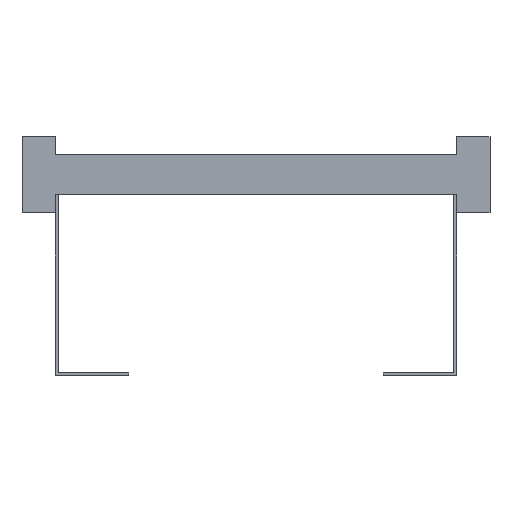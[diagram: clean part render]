
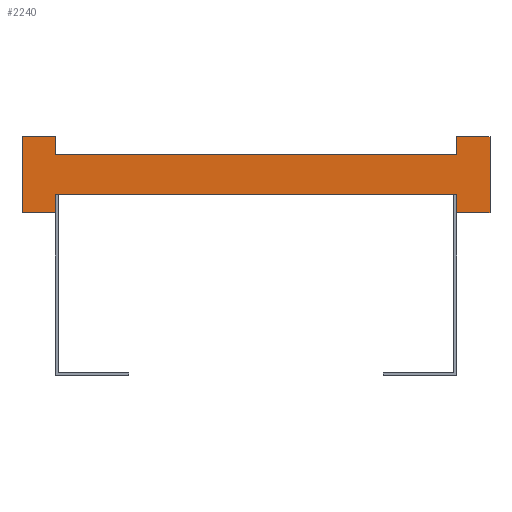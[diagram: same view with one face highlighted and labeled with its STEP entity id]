
A CAD part, front view. The second image highlights one B-rep face of the part: STEP entity #2240.
In plain terms, the highlighted planar face has unit normal (0, -1, 0).
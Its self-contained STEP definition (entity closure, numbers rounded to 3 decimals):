
#1=DIRECTION('',(0.,0.,1.));
#2=VECTOR('',#1,13.5);
#3=CARTESIAN_POINT('',(150.,0.,-28.5));
#4=LINE('',#3,#2);
#5=DIRECTION('',(0.,0.,-1.));
#6=VECTOR('',#5,13.5);
#7=CARTESIAN_POINT('',(-150.,0.,-15.));
#8=LINE('',#7,#6);
#9=DIRECTION('',(-1.,0.,0.));
#10=VECTOR('',#9,25.);
#11=CARTESIAN_POINT('',(-150.,0.,-28.5));
#12=LINE('',#11,#10);
#13=DIRECTION('',(0.,0.,1.));
#14=VECTOR('',#13,57.);
#15=CARTESIAN_POINT('',(-175.,0.,-28.5));
#16=LINE('',#15,#14);
#17=DIRECTION('',(1.,0.,0.));
#18=VECTOR('',#17,25.);
#19=CARTESIAN_POINT('',(-175.,0.,28.5));
#20=LINE('',#19,#18);
#21=DIRECTION('',(0.,0.,-1.));
#22=VECTOR('',#21,13.5);
#23=CARTESIAN_POINT('',(-150.,0.,28.5));
#24=LINE('',#23,#22);
#25=DIRECTION('',(0.,0.,1.));
#26=VECTOR('',#25,13.5);
#27=CARTESIAN_POINT('',(150.,0.,15.));
#28=LINE('',#27,#26);
#29=DIRECTION('',(1.,0.,0.));
#30=VECTOR('',#29,25.);
#31=CARTESIAN_POINT('',(150.,0.,28.5));
#32=LINE('',#31,#30);
#33=DIRECTION('',(0.,0.,-1.));
#34=VECTOR('',#33,57.);
#35=CARTESIAN_POINT('',(175.,0.,28.5));
#36=LINE('',#35,#34);
#37=DIRECTION('',(-1.,0.,0.));
#38=VECTOR('',#37,25.);
#39=CARTESIAN_POINT('',(175.,0.,-28.5));
#40=LINE('',#39,#38);
#1649=DIRECTION('',(1.,0.,0.));
#1650=VECTOR('',#1649,300.);
#1651=CARTESIAN_POINT('',(-150.,0.,-15.));
#1652=LINE('',#1651,#1650);
#1661=DIRECTION('',(1.,0.,0.));
#1662=VECTOR('',#1661,300.);
#1663=CARTESIAN_POINT('',(-150.,0.,15.));
#1664=LINE('',#1663,#1662);
#1665=CARTESIAN_POINT('',(-175.,0.,28.5));
#1666=CARTESIAN_POINT('',(-150.,0.,28.5));
#1667=VERTEX_POINT('',#1665);
#1668=VERTEX_POINT('',#1666);
#1669=CARTESIAN_POINT('',(-150.,0.,-28.5));
#1670=CARTESIAN_POINT('',(-175.,0.,-28.5));
#1671=VERTEX_POINT('',#1669);
#1672=VERTEX_POINT('',#1670);
#1673=CARTESIAN_POINT('',(175.,0.,28.5));
#1674=CARTESIAN_POINT('',(175.,0.,-28.5));
#1675=VERTEX_POINT('',#1673);
#1676=VERTEX_POINT('',#1674);
#1677=CARTESIAN_POINT('',(150.,0.,-28.5));
#1678=VERTEX_POINT('',#1677);
#1679=CARTESIAN_POINT('',(150.,0.,28.5));
#1680=VERTEX_POINT('',#1679);
#1697=CARTESIAN_POINT('',(-150.,0.,-15.));
#1699=VERTEX_POINT('',#1697);
#1701=CARTESIAN_POINT('',(-150.,0.,15.));
#1703=VERTEX_POINT('',#1701);
#1705=CARTESIAN_POINT('',(150.,0.,-15.));
#1707=VERTEX_POINT('',#1705);
#1709=CARTESIAN_POINT('',(150.,0.,15.));
#1711=VERTEX_POINT('',#1709);
#2209=CARTESIAN_POINT('',(0.,0.,0.));
#2210=DIRECTION('',(0.,1.,0.));
#2211=DIRECTION('',(1.,0.,0.));
#2212=AXIS2_PLACEMENT_3D('',#2209,#2210,#2211);
#2213=PLANE('',#2212);
#2215=ORIENTED_EDGE('',*,*,#2214,.T.);
#2217=ORIENTED_EDGE('',*,*,#2216,.F.);
#2219=ORIENTED_EDGE('',*,*,#2218,.T.);
#2221=ORIENTED_EDGE('',*,*,#2220,.T.);
#2223=ORIENTED_EDGE('',*,*,#2222,.T.);
#2225=ORIENTED_EDGE('',*,*,#2224,.T.);
#2227=ORIENTED_EDGE('',*,*,#2226,.T.);
#2229=ORIENTED_EDGE('',*,*,#2228,.T.);
#2231=ORIENTED_EDGE('',*,*,#2230,.T.);
#2233=ORIENTED_EDGE('',*,*,#2232,.T.);
#2235=ORIENTED_EDGE('',*,*,#2234,.T.);
#2237=ORIENTED_EDGE('',*,*,#2236,.T.);
#2238=EDGE_LOOP('',(#2215,#2217,#2219,#2221,#2223,#2225,#2227,#2229,#2231,#2233,
#2235,#2237));
#2239=FACE_OUTER_BOUND('',#2238,.F.);
#2240=ADVANCED_FACE('',(#2239),#2213,.F.);
#2214=EDGE_CURVE('',#1678,#1707,#4,.T.);
#2216=EDGE_CURVE('',#1699,#1707,#1652,.T.);
#2218=EDGE_CURVE('',#1699,#1671,#8,.T.);
#2220=EDGE_CURVE('',#1671,#1672,#12,.T.);
#2222=EDGE_CURVE('',#1672,#1667,#16,.T.);
#2224=EDGE_CURVE('',#1667,#1668,#20,.T.);
#2226=EDGE_CURVE('',#1668,#1703,#24,.T.);
#2228=EDGE_CURVE('',#1703,#1711,#1664,.T.);
#2230=EDGE_CURVE('',#1711,#1680,#28,.T.);
#2232=EDGE_CURVE('',#1680,#1675,#32,.T.);
#2234=EDGE_CURVE('',#1675,#1676,#36,.T.);
#2236=EDGE_CURVE('',#1676,#1678,#40,.T.);
